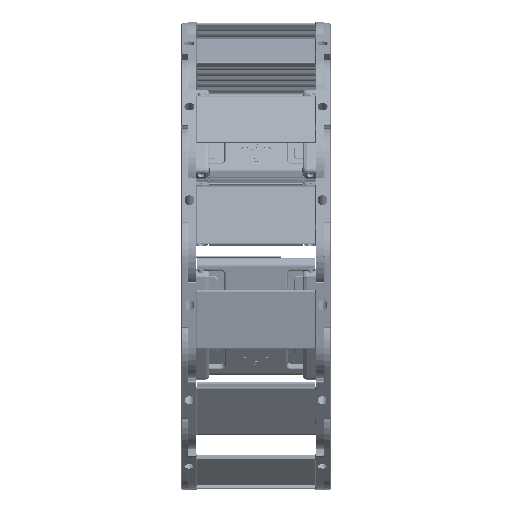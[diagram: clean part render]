
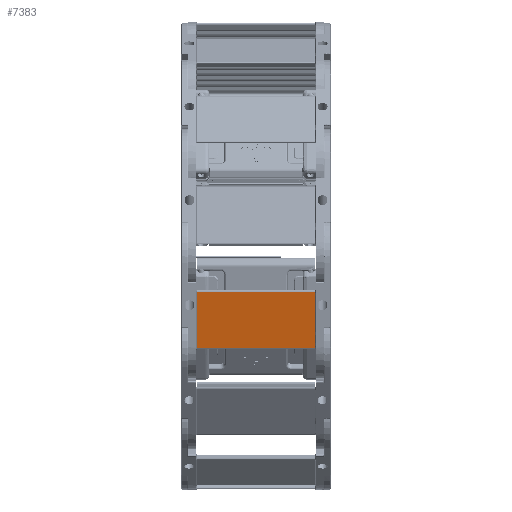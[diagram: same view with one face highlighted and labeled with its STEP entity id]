
A CAD part, front view. The second image highlights one B-rep face of the part: STEP entity #7383.
In plain terms, the highlighted planar face has unit normal (0, -0.978, -0.208) as drawn and (0.132, 0, 0.991) by its records, which use the part's own axes.
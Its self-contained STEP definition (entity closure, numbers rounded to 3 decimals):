
#292=CARTESIAN_POINT('',(47.817,8.875,146.031));
#293=VERTEX_POINT('',#292);
#310=CARTESIAN_POINT('',(76.561,8.875,142.19));
#311=VERTEX_POINT('',#310);
#319=CARTESIAN_POINT('',(47.817,8.875,146.031));
#320=DIRECTION('',(0.991,0.,-0.132));
#321=VECTOR('',#320,29.);
#322=LINE('',#319,#321);
#323=EDGE_CURVE('',#293,#311,#322,.T.);
#7234=CARTESIAN_POINT('',(76.561,67.875,142.19));
#7235=VERTEX_POINT('',#7234);
#7243=CARTESIAN_POINT('',(76.561,67.875,142.19));
#7244=DIRECTION('',(0.0,-1.0,0.0));
#7245=VECTOR('',#7244,59.);
#7246=LINE('',#7243,#7245);
#7247=EDGE_CURVE('',#7235,#311,#7246,.T.);
#7360=CARTESIAN_POINT('',(77.58,20.375,142.054));
#7361=DIRECTION('',(0.132,0.,0.991));
#7362=DIRECTION('',(0.0,1.0,0.0));
#7363=AXIS2_PLACEMENT_3D('',#7360,#7361,#7362);
#7364=PLANE('',#7363);
#7365=ORIENTED_EDGE('',*,*,#7247,.F.);
#7366=CARTESIAN_POINT('',(47.817,67.875,146.031));
#7367=VERTEX_POINT('',#7366);
#7368=CARTESIAN_POINT('',(47.817,67.875,146.031));
#7369=DIRECTION('',(0.991,0.,-0.132));
#7370=VECTOR('',#7369,29.);
#7371=LINE('',#7368,#7370);
#7372=EDGE_CURVE('',#7367,#7235,#7371,.T.);
#7373=ORIENTED_EDGE('',*,*,#7372,.F.);
#7374=CARTESIAN_POINT('',(47.817,8.875,146.031));
#7375=DIRECTION('',(0.0,1.0,0.0));
#7376=VECTOR('',#7375,59.);
#7377=LINE('',#7374,#7376);
#7378=EDGE_CURVE('',#293,#7367,#7377,.T.);
#7379=ORIENTED_EDGE('',*,*,#7378,.F.);
#7380=ORIENTED_EDGE('',*,*,#323,.T.);
#7381=EDGE_LOOP('',(#7365,#7373,#7379,#7380));
#7382=FACE_OUTER_BOUND('',#7381,.T.);
#7383=ADVANCED_FACE('',(#7382),#7364,.T.);
